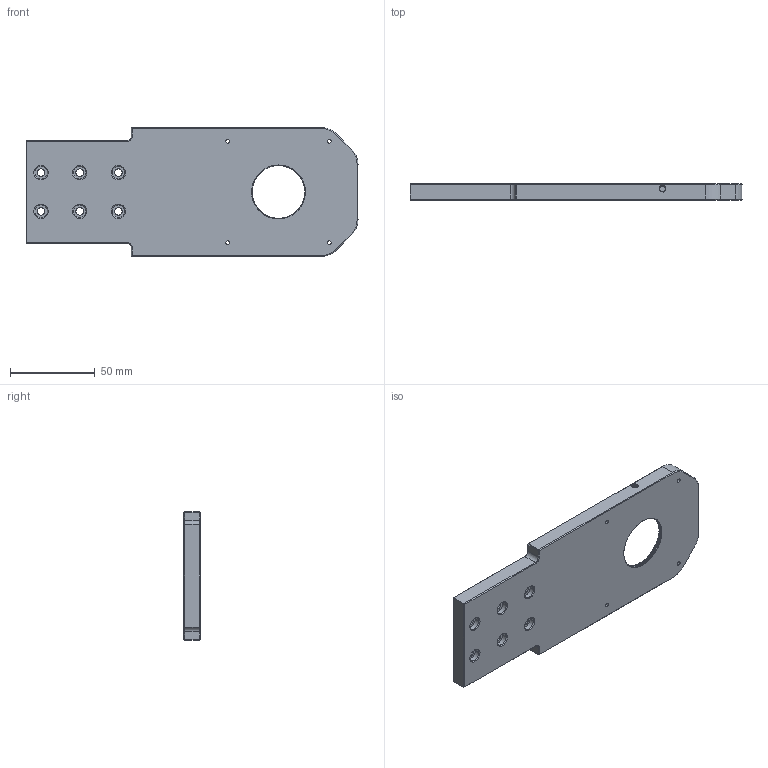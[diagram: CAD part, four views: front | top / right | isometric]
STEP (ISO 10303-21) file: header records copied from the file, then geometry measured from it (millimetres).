
FILE_DESCRIPTION((''),'2;1');
FILE_NAME('LHA95-D2B','2024-07-11T15:21:22',('R&D'),(''),'CREO PARAMETRIC BY PTC INC, 2021063','CREO PARAMETRIC BY PTC INC, 2021063','');
FILE_SCHEMA(('CONFIG_CONTROL_DESIGN'));
Length unit declared in the file: millimetre
Products named in the file (1): LHA95-D2B
Bounding box: 196.22 x 9.53 x 76.2 mm (x, y, z)
Volume: 105950 mm3; surface area: 33573.5 mm2
Topology: 1 solids, 1 shells, 220 faces, 551 edges, 346 vertices
Faces by surface type: cylinder 89, plane 64, cone 42, bspline 25
Entity records: 10025 total; most frequent: CARTESIAN_POINT 4855, ORIENTED_EDGE 1102, DIRECTION 997, EDGE_CURVE 551, AXIS2_PLACEMENT_3D 374, VERTEX_POINT 346, EDGE_LOOP 257, VECTOR 249
